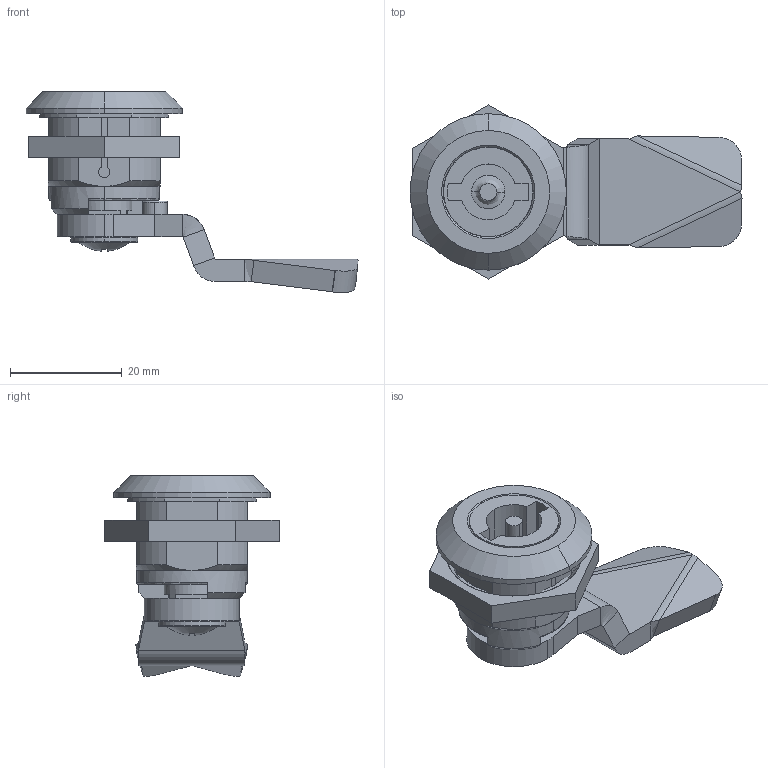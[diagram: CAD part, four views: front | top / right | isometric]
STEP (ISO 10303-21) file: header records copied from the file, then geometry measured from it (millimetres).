
FILE_DESCRIPTION (( 'STEP AP203' ), '1' );
FILE_NAME ('013.100.030.STEP', '2021-03-22T07:39:44', ( '' ), ( '' ), 'SwSTEP 2.0', 'SolidWorks 2018', '' );
FILE_SCHEMA (( 'CONFIG_CONTROL_DESIGN' ));
Length unit declared in the file: millimetre
Products named in the file (10): 013.100.030; 1000-03; 1000-102A-1X_AF0; ROH-NR_76; 1000-02; 1000-102A-2X; 1000-156-SI; 1000-U677; 1000-102A-D_ASM; 1000-50_prt
Assembly tree (9 placements, depth 3):
  013.100.030
    1000-102A-D_ASM
      1000-102A-1X_AF0
      1000-102A-2X
    1000-02
    1000-U677
      1000-03
      ROH-NR_76
      1000-156-SI
    1000-50_prt
Bounding box: 59.42 x 31.18 x 35.97 mm (x, y, z)
Volume: 11059.6 mm3; surface area: 10915.6 mm2
Topology: 7 solids, 8 shells, 318 faces, 784 edges, 493 vertices
Faces by surface type: plane 164, cylinder 102, bspline 36, cone 16
Entity records: 15311 total; most frequent: CARTESIAN_POINT 6851, ORIENTED_EDGE 1564, DIRECTION 1506, EDGE_CURVE 784, AXIS2_PLACEMENT_3D 531, VERTEX_POINT 493, LINE 444, VECTOR 444
